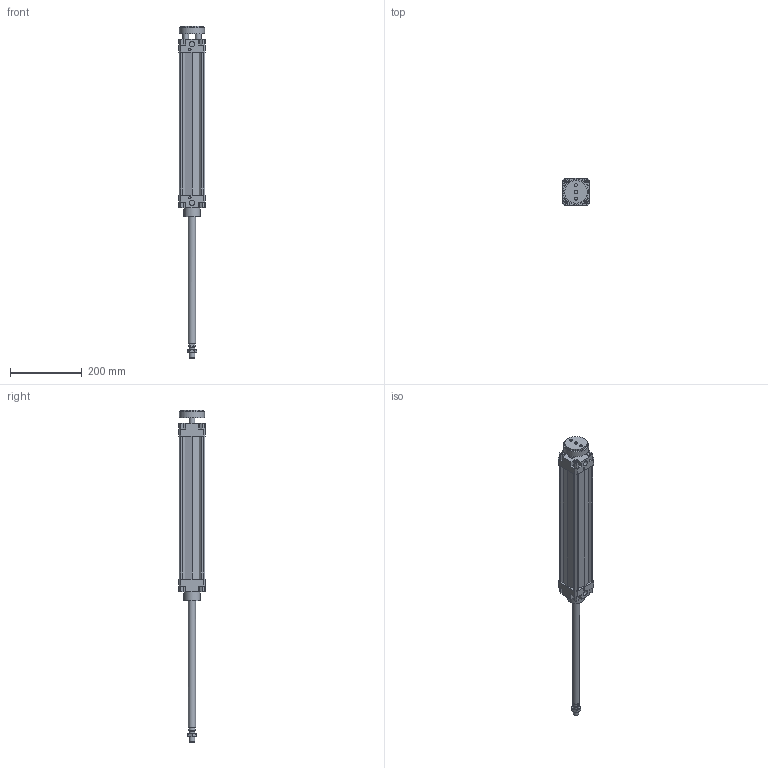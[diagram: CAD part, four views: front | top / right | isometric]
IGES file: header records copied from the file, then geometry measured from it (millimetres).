
Global section: file name: 132#_063_0350_02; native system: Autodesk Inventor 2014; preprocessor: unknown; author: A. Manieri; date: 20161006.160035; units: millimetre
Bounding box: 75 x 75 x 927 mm (x, y, z)
Volume: 1405089.5 mm3; surface area: 356983 mm2
Topology: 3 solids, 3 shells, 220 faces, 589 edges, 397 vertices
Faces by surface type: bspline 220
